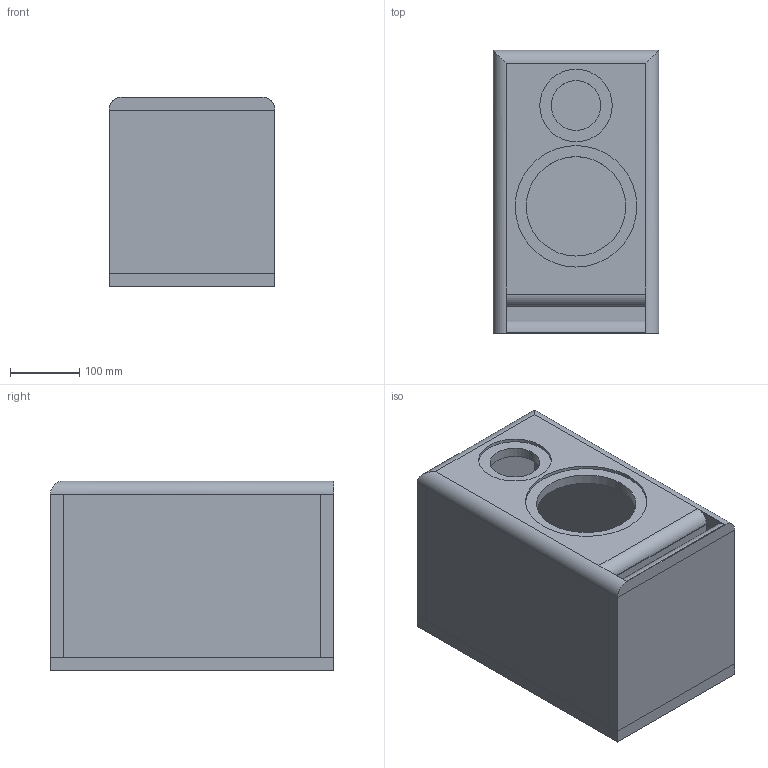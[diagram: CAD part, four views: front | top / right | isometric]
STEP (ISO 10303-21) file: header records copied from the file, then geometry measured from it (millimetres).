
FILE_DESCRIPTION (( 'STEP AP203' ), '1' );
FILE_NAME ('6510 assieme.STEP', '2024-08-24T13:54:50', ( '' ), ( '' ), 'SwSTEP 2.0', 'SolidWorks 2020', '' );
FILE_SCHEMA (( 'CONFIG_CONTROL_DESIGN' ));
Length unit declared in the file: millimetre
Products named in the file (8): 6500 front; 6500 side r; 6500 bottom; 6510 pipe; 6510 assieme; 6500 top; 6500 side l; 6500 back
Assembly tree (7 placements, depth 2):
  6510 assieme
    6500 front
    6500 back
    6500 bottom
    6500 side l
    6500 side r
    6500 top
    6510 pipe
Bounding box: 240 x 410 x 275 mm (x, y, z)
Volume: 9197289.2 mm3; surface area: 1141396.6 mm2
Topology: 7 solids, 7 shells, 59 faces, 128 edges, 84 vertices
Faces by surface type: plane 46, cylinder 13
Entity records: 2454 total; most frequent: CARTESIAN_POINT 287, DIRECTION 286, ORIENTED_EDGE 256, EDGE_CURVE 128, LINE 104, VECTOR 104, AXIS2_PLACEMENT_3D 91, VERTEX_POINT 84
